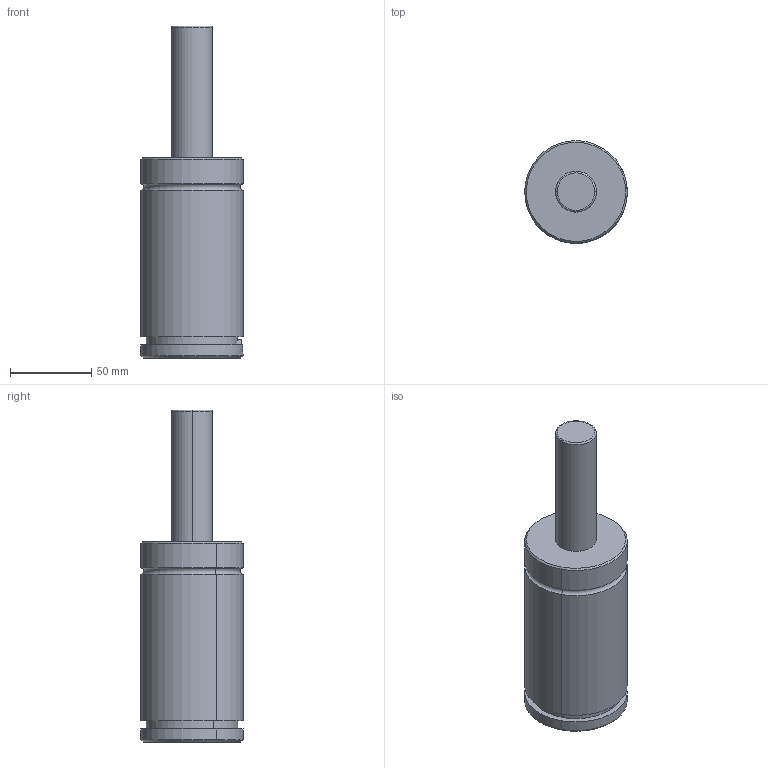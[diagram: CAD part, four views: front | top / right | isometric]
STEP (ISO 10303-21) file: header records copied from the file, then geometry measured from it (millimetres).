
FILE_DESCRIPTION(('FreeCAD Model'),'2;1');
FILE_NAME('Open CASCADE Shape Model','2024-11-12T16:14:03',('Author'),( ''),'Open CASCADE STEP processor 7.6','FreeCAD','Unknown');
FILE_SCHEMA(('AUTOMOTIVE_DESIGN { 1 0 10303 214 1 1 1 1 }'));
Length unit declared in the file: millimetre
Products named in the file (1): Cut
Bounding box: 62.98 x 62.98 x 204 mm (x, y, z)
Volume: 416064.2 mm3; surface area: 39547.2 mm2
Topology: 1 solids, 1 shells, 68 faces, 153 edges, 92 vertices
Faces by surface type: cylinder 27, plane 19, cone 16, torus 6
Full cylindrical faces by diameter (mm): 8 x4
Entity records: 2009 total; most frequent: CARTESIAN_POINT 465, DIRECTION 338, ORIENTED_EDGE 298, EDGE_CURVE 149, AXIS2_PLACEMENT_3D 140, VERTEX_POINT 92, FACE_BOUND 79, EDGE_LOOP 79
